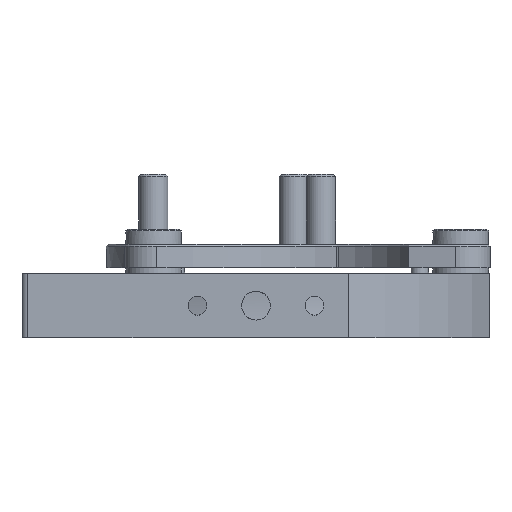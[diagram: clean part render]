
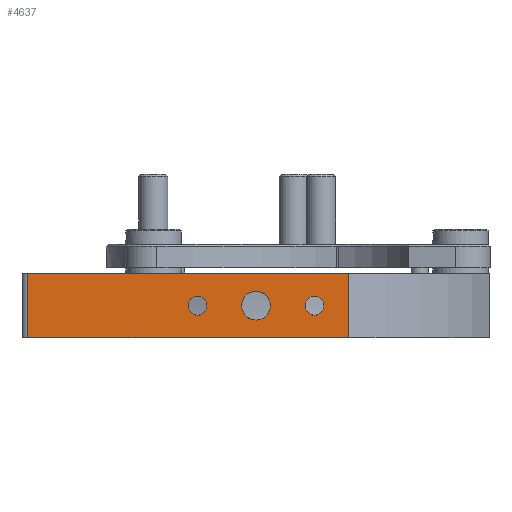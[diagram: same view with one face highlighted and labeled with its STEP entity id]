
A CAD part, front view. The second image highlights one B-rep face of the part: STEP entity #4637.
In plain terms, the highlighted planar face has unit normal (0, -1, 0).
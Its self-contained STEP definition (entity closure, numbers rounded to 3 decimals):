
#337 = VERTEX_POINT ( 'NONE', #5998 ) ;
#339 = EDGE_CURVE ( 'NONE', #340, #337, #6041, .T. ) ;
#340 = VERTEX_POINT ( 'NONE', #6037 ) ;
#393 = VERTEX_POINT ( 'NONE', #6176 ) ;
#395 = EDGE_CURVE ( 'NONE', #396, #393, #6175, .T. ) ;
#396 = VERTEX_POINT ( 'NONE', #6170 ) ;
#407 = VERTEX_POINT ( 'NONE', #6207 ) ;
#409 = EDGE_CURVE ( 'NONE', #410, #407, #6206, .T. ) ;
#410 = VERTEX_POINT ( 'NONE', #6249 ) ;
#4334 = EDGE_CURVE ( 'NONE', #337, #340, #14865, .T. ) ;
#4340 = EDGE_CURVE ( 'NONE', #407, #410, #14859, .T. ) ;
#4399 = EDGE_CURVE ( 'NONE', #393, #396, #14986, .T. ) ;
#4413 = VERTEX_POINT ( 'NONE', #14723 ) ;
#4415 = EDGE_CURVE ( 'NONE', #4416, #4413, #14721, .T. ) ;
#4416 = VERTEX_POINT ( 'NONE', #14735 ) ;
#4620 = EDGE_CURVE ( 'NONE', #4621, #4416, #15094, .T. ) ;
#4621 = VERTEX_POINT ( 'NONE', #15159 ) ;
#4637 = ADVANCED_FACE ( 'NONE', ( #15158, #15157, #15156, #15155 ), #15154, .T. ) ;
#4638 = EDGE_LOOP ( 'NONE', ( #4639, #4640 ) ) ;
#4639 = ORIENTED_EDGE ( 'NONE', *, *, #395, .T. ) ;
#4640 = ORIENTED_EDGE ( 'NONE', *, *, #4399, .T. ) ;
#4677 = ORIENTED_EDGE ( 'NONE', *, *, #4678, .T. ) ;
#4678 = EDGE_CURVE ( 'NONE', #4413, #4699, #15183, .T. ) ;
#4690 = EDGE_LOOP ( 'NONE', ( #4691, #4692 ) ) ;
#4691 = ORIENTED_EDGE ( 'NONE', *, *, #409, .T. ) ;
#4692 = ORIENTED_EDGE ( 'NONE', *, *, #4340, .T. ) ;
#4693 = EDGE_LOOP ( 'NONE', ( #4694, #4695 ) ) ;
#4694 = ORIENTED_EDGE ( 'NONE', *, *, #339, .T. ) ;
#4695 = ORIENTED_EDGE ( 'NONE', *, *, #4334, .T. ) ;
#4696 = EDGE_LOOP ( 'NONE', ( #4697, #4700, #4701, #4677 ) ) ;
#4697 = ORIENTED_EDGE ( 'NONE', *, *, #4698, .F. ) ;
#4698 = EDGE_CURVE ( 'NONE', #4621, #4699, #15223, .T. ) ;
#4699 = VERTEX_POINT ( 'NONE', #15219 ) ;
#4700 = ORIENTED_EDGE ( 'NONE', *, *, #4620, .T. ) ;
#4701 = ORIENTED_EDGE ( 'NONE', *, *, #4415, .T. ) ;
#5997 = CARTESIAN_POINT ( 'NONE',  ( -10.024, -43.295, 5.5 ) ) ;
#5998 = CARTESIAN_POINT ( 'NONE',  ( -11.645, -43.295, 5.5 ) ) ;
#6037 = CARTESIAN_POINT ( 'NONE',  ( -8.403, -43.295, 5.5 ) ) ;
#6038 = DIRECTION ( 'NONE',  ( 1., 0., 0. ) ) ;
#6039 = DIRECTION ( 'NONE',  ( 0., 1., 0. ) ) ;
#6040 = AXIS2_PLACEMENT_3D ( 'NONE', #5997, #6039, #6038 ) ;
#6041 = CIRCLE ( 'NONE', #6040, 1.621 ) ;
#6170 = CARTESIAN_POINT ( 'NONE',  ( 2.434, -43.295, 5.5 ) ) ;
#6171 = DIRECTION ( 'NONE',  ( 1., 0., 0. ) ) ;
#6172 = DIRECTION ( 'NONE',  ( 0., 1., 0. ) ) ;
#6173 = CARTESIAN_POINT ( 'NONE',  ( -0.024, -43.295, 5.5 ) ) ;
#6174 = AXIS2_PLACEMENT_3D ( 'NONE', #6173, #6172, #6171 ) ;
#6175 = CIRCLE ( 'NONE', #6174, 2.458 ) ;
#6176 = CARTESIAN_POINT ( 'NONE',  ( -2.483, -43.295, 5.5 ) ) ;
#6206 = CIRCLE ( 'NONE', #6253, 1.621 ) ;
#6207 = CARTESIAN_POINT ( 'NONE',  ( 8.355, -43.295, 5.5 ) ) ;
#6249 = CARTESIAN_POINT ( 'NONE',  ( 11.597, -43.295, 5.5 ) ) ;
#6250 = DIRECTION ( 'NONE',  ( 1., 0., 0. ) ) ;
#6251 = DIRECTION ( 'NONE',  ( 0., 1., 0. ) ) ;
#6252 = CARTESIAN_POINT ( 'NONE',  ( 9.976, -43.295, 5.5 ) ) ;
#6253 = AXIS2_PLACEMENT_3D ( 'NONE', #6252, #6251, #6250 ) ;
#14721 = LINE ( 'NONE', #14738, #14737 ) ;
#14723 = CARTESIAN_POINT ( 'NONE',  ( -39.024, -43.295, 0. ) ) ;
#14735 = CARTESIAN_POINT ( 'NONE',  ( -39.024, -43.295, 11. ) ) ;
#14736 = DIRECTION ( 'NONE',  ( 0., 0., -1. ) ) ;
#14737 = VECTOR ( 'NONE', #14736, 1000. ) ;
#14738 = CARTESIAN_POINT ( 'NONE',  ( -39.024, -43.295, 0. ) ) ;
#14851 = DIRECTION ( 'NONE',  ( 1., 0., 0. ) ) ;
#14852 = DIRECTION ( 'NONE',  ( 0., 1., 0. ) ) ;
#14853 = CARTESIAN_POINT ( 'NONE',  ( 9.976, -43.295, 5.5 ) ) ;
#14854 = AXIS2_PLACEMENT_3D ( 'NONE', #14853, #14852, #14851 ) ;
#14859 = CIRCLE ( 'NONE', #14854, 1.621 ) ;
#14862 = DIRECTION ( 'NONE',  ( 1., 0., 0. ) ) ;
#14863 = DIRECTION ( 'NONE',  ( 0., 1., 0. ) ) ;
#14864 = AXIS2_PLACEMENT_3D ( 'NONE', #14870, #14863, #14862 ) ;
#14865 = CIRCLE ( 'NONE', #14864, 1.621 ) ;
#14870 = CARTESIAN_POINT ( 'NONE',  ( -10.024, -43.295, 5.5 ) ) ;
#14982 = DIRECTION ( 'NONE',  ( 1., 0., 0. ) ) ;
#14983 = DIRECTION ( 'NONE',  ( 0., 1., 0. ) ) ;
#14984 = CARTESIAN_POINT ( 'NONE',  ( -0.024, -43.295, 5.5 ) ) ;
#14985 = AXIS2_PLACEMENT_3D ( 'NONE', #14984, #14983, #14982 ) ;
#14986 = CIRCLE ( 'NONE', #14985, 2.458 ) ;
#15091 = DIRECTION ( 'NONE',  ( -1., 0., 0. ) ) ;
#15092 = VECTOR ( 'NONE', #15091, 1000. ) ;
#15093 = CARTESIAN_POINT ( 'NONE',  ( 15.756, -43.295, 11. ) ) ;
#15094 = LINE ( 'NONE', #15093, #15092 ) ;
#15150 = DIRECTION ( 'NONE',  ( 1., 0., 0. ) ) ;
#15151 = DIRECTION ( 'NONE',  ( 0., -1., 0. ) ) ;
#15152 = CARTESIAN_POINT ( 'NONE',  ( 15.756, -43.295, 0. ) ) ;
#15153 = AXIS2_PLACEMENT_3D ( 'NONE', #15152, #15151, #15150 ) ;
#15154 = PLANE ( 'NONE',  #15153 ) ;
#15155 = FACE_OUTER_BOUND ( 'NONE', #4696, .T. ) ;
#15156 = FACE_BOUND ( 'NONE', #4693, .T. ) ;
#15157 = FACE_BOUND ( 'NONE', #4690, .T. ) ;
#15158 = FACE_BOUND ( 'NONE', #4638, .T. ) ;
#15159 = CARTESIAN_POINT ( 'NONE',  ( 15.756, -43.295, 11. ) ) ;
#15180 = DIRECTION ( 'NONE',  ( 1., 0., 0. ) ) ;
#15181 = VECTOR ( 'NONE', #15180, 1000. ) ;
#15182 = CARTESIAN_POINT ( 'NONE',  ( -2.189, -43.295, 0. ) ) ;
#15183 = LINE ( 'NONE', #15182, #15181 ) ;
#15219 = CARTESIAN_POINT ( 'NONE',  ( 15.756, -43.295, 0. ) ) ;
#15220 = DIRECTION ( 'NONE',  ( 0., 0., -1. ) ) ;
#15221 = VECTOR ( 'NONE', #15220, 1000. ) ;
#15222 = CARTESIAN_POINT ( 'NONE',  ( 15.756, -43.295, 0. ) ) ;
#15223 = LINE ( 'NONE', #15222, #15221 ) ;
